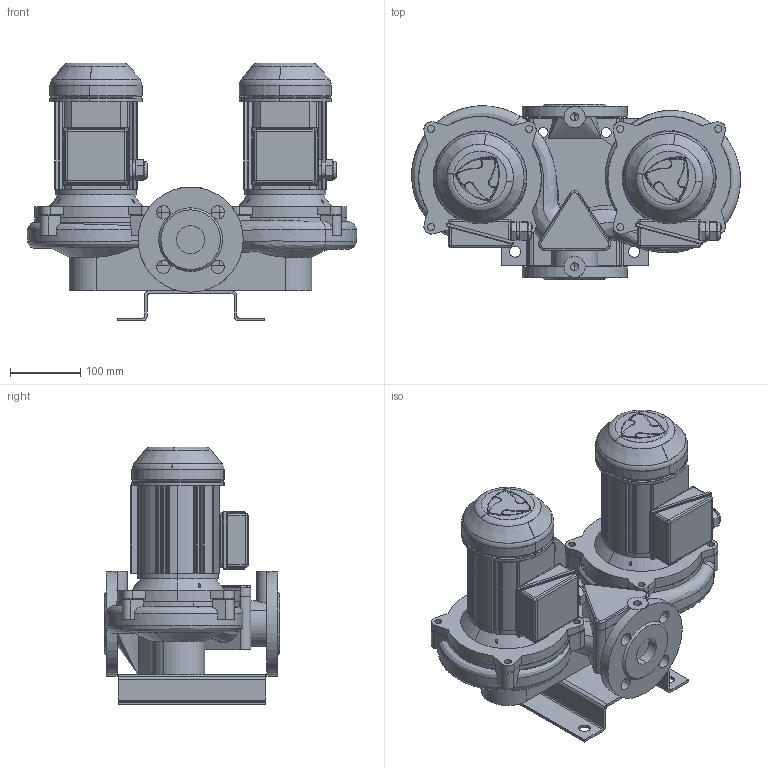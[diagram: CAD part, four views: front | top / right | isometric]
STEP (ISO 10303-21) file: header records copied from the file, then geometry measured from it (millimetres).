
FILE_DESCRIPTION(('STEP AP214'),'1');
FILE_NAME('export.stp','2018-05-30T07:28:18',(' '),(' '),'Spatial InterOp 3D',' ',' ');
FILE_SCHEMA(('AUTOMOTIVE_DESIGN { 1 0 10303 214 1 1 1 1 }'));
Length unit declared in the file: millimetre
Products named in the file (11): W_T40A4370_OP772; V_TLAEAP3233L40A; V_PPT40A; V_JALKA35973; V_MOP-772_N13; R201415; EK_OP7_N13; TSUOJA_OP_752; KYTKOTELO_OP7_OKN8
Assembly tree (14 placements, depth 3):
  W_T40A4370_OP772
    V_TLAEAP3233L40A  x2
    V_PPT40A
    V_JALKA35973
    V_MOP-772_N13
      R201415
      EK_OP7_N13
      TSUOJA_OP_752
      KYTKOTELO_OP7_OKN8
    V_MOP-772_N13
      R201415
      EK_OP7_N13
      TSUOJA_OP_752
      KYTKOTELO_OP7_OKN8
Bounding box: 469.52 x 250 x 368.01 mm (x, y, z)
Volume: 8377457.3 mm3; surface area: 1734098.1 mm2
Topology: 12 solids, 14 shells, 1268 faces, 3389 edges, 2173 vertices
Faces by surface type: cylinder 681, plane 324, cone 96, bspline 81, torus 62, sphere 24
Entity records: 48604 total; most frequent: CARTESIAN_POINT 13213, DIRECTION 4790, ORIENTED_EDGE 4738, EDGE_CURVE 2369, STYLED_ITEM 1979, PRESENTATION_STYLE_ASSIGNMENT 1979, COLOUR_RGB 1979, AXIS2_PLACEMENT_3D 1926
